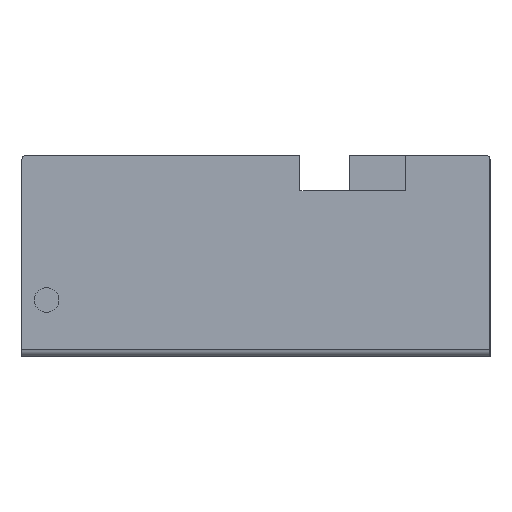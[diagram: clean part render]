
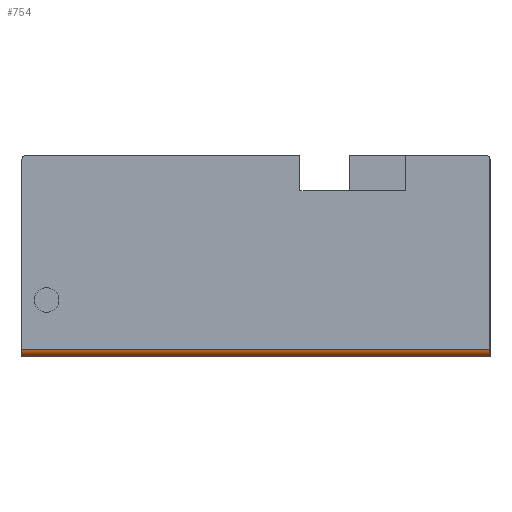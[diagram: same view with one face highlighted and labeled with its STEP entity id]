
A CAD part, left-side view. The second image highlights one B-rep face of the part: STEP entity #754.
In plain terms, the highlighted cylindrical face has radius 2 mm (diameter 4 mm), a partial arc.
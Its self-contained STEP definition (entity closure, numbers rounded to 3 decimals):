
#22 = VERTEX_POINT('',#23);
#23 = CARTESIAN_POINT('',(-2.,249.,2.));
#44 = PLANE('',#45);
#45 = AXIS2_PLACEMENT_3D('',#46,#47,#48);
#46 = CARTESIAN_POINT('',(-2.,182.5,29.5));
#47 = DIRECTION('',(1.,0.,0.));
#48 = DIRECTION('',(0.,0.,-1.));
#72 = PLANE('',#73);
#73 = AXIS2_PLACEMENT_3D('',#74,#75,#76);
#74 = CARTESIAN_POINT('',(0.,249.,2.));
#75 = DIRECTION('',(0.,1.,0.));
#76 = DIRECTION('',(0.,0.,-1.));
#330 = VERTEX_POINT('',#331);
#331 = CARTESIAN_POINT('',(-2.,116.,2.));
#357 = EDGE_CURVE('',#330,#22,#358,.T.);
#358 = SURFACE_CURVE('',#359,(#363,#370),.PCURVE_S1.);
#359 = LINE('',#360,#361);
#360 = CARTESIAN_POINT('',(-2.,116.,2.));
#361 = VECTOR('',#362,1.);
#362 = DIRECTION('',(0.,1.,0.));
#363 = PCURVE('',#44,#364);
#364 = DEFINITIONAL_REPRESENTATION('',(#365),#369);
#365 = LINE('',#366,#367);
#366 = CARTESIAN_POINT('',(27.5,-66.5));
#367 = VECTOR('',#368,1.);
#368 = DIRECTION('',(0.,1.));
#369 = ( GEOMETRIC_REPRESENTATION_CONTEXT(2) 
PARAMETRIC_REPRESENTATION_CONTEXT() REPRESENTATION_CONTEXT('2D SPACE',''
  ) );
#370 = PCURVE('',#371,#376);
#371 = CYLINDRICAL_SURFACE('',#372,2.);
#372 = AXIS2_PLACEMENT_3D('',#373,#374,#375);
#373 = CARTESIAN_POINT('',(0.,116.,2.));
#374 = DIRECTION('',(0.,1.,0.));
#375 = DIRECTION('',(0.,0.,-1.));
#376 = DEFINITIONAL_REPRESENTATION('',(#377),#381);
#377 = LINE('',#378,#379);
#378 = CARTESIAN_POINT('',(1.571,0.));
#379 = VECTOR('',#380,1.);
#380 = DIRECTION('',(0.,1.));
#381 = ( GEOMETRIC_REPRESENTATION_CONTEXT(2) 
PARAMETRIC_REPRESENTATION_CONTEXT() REPRESENTATION_CONTEXT('2D SPACE',''
  ) );
#417 = EDGE_CURVE('',#418,#22,#420,.T.);
#418 = VERTEX_POINT('',#419);
#419 = CARTESIAN_POINT('',(0.,249.,0.));
#420 = SURFACE_CURVE('',#421,(#426,#433),.PCURVE_S1.);
#421 = CIRCLE('',#422,2.);
#422 = AXIS2_PLACEMENT_3D('',#423,#424,#425);
#423 = CARTESIAN_POINT('',(0.,249.,2.));
#424 = DIRECTION('',(-0.,1.,0.));
#425 = DIRECTION('',(0.,0.,-1.));
#426 = PCURVE('',#72,#427);
#427 = DEFINITIONAL_REPRESENTATION('',(#428),#432);
#428 = CIRCLE('',#429,2.);
#429 = AXIS2_PLACEMENT_2D('',#430,#431);
#430 = CARTESIAN_POINT('',(0.,0.));
#431 = DIRECTION('',(1.,0.));
#432 = ( GEOMETRIC_REPRESENTATION_CONTEXT(2) 
PARAMETRIC_REPRESENTATION_CONTEXT() REPRESENTATION_CONTEXT('2D SPACE',''
  ) );
#433 = PCURVE('',#371,#434);
#434 = DEFINITIONAL_REPRESENTATION('',(#435),#439);
#435 = LINE('',#436,#437);
#436 = CARTESIAN_POINT('',(0.,133.));
#437 = VECTOR('',#438,1.);
#438 = DIRECTION('',(1.,0.));
#439 = ( GEOMETRIC_REPRESENTATION_CONTEXT(2) 
PARAMETRIC_REPRESENTATION_CONTEXT() REPRESENTATION_CONTEXT('2D SPACE',''
  ) );
#754 = ADVANCED_FACE('',(#755),#371,.T.);
#755 = FACE_BOUND('',#756,.T.);
#756 = EDGE_LOOP('',(#757,#786,#787,#788));
#757 = ORIENTED_EDGE('',*,*,#758,.T.);
#758 = EDGE_CURVE('',#759,#330,#761,.T.);
#759 = VERTEX_POINT('',#760);
#760 = CARTESIAN_POINT('',(0.,116.,0.));
#761 = SURFACE_CURVE('',#762,(#767,#774),.PCURVE_S1.);
#762 = CIRCLE('',#763,2.);
#763 = AXIS2_PLACEMENT_3D('',#764,#765,#766);
#764 = CARTESIAN_POINT('',(0.,116.,2.));
#765 = DIRECTION('',(-0.,1.,0.));
#766 = DIRECTION('',(0.,0.,-1.));
#767 = PCURVE('',#371,#768);
#768 = DEFINITIONAL_REPRESENTATION('',(#769),#773);
#769 = LINE('',#770,#771);
#770 = CARTESIAN_POINT('',(0.,0.));
#771 = VECTOR('',#772,1.);
#772 = DIRECTION('',(1.,0.));
#773 = ( GEOMETRIC_REPRESENTATION_CONTEXT(2) 
PARAMETRIC_REPRESENTATION_CONTEXT() REPRESENTATION_CONTEXT('2D SPACE',''
  ) );
#774 = PCURVE('',#775,#780);
#775 = PLANE('',#776);
#776 = AXIS2_PLACEMENT_3D('',#777,#778,#779);
#777 = CARTESIAN_POINT('',(0.,116.,2.));
#778 = DIRECTION('',(0.,1.,0.));
#779 = DIRECTION('',(-0.,-0.,-1.));
#780 = DEFINITIONAL_REPRESENTATION('',(#781),#785);
#781 = CIRCLE('',#782,2.);
#782 = AXIS2_PLACEMENT_2D('',#783,#784);
#783 = CARTESIAN_POINT('',(0.,0.));
#784 = DIRECTION('',(1.,-0.));
#785 = ( GEOMETRIC_REPRESENTATION_CONTEXT(2) 
PARAMETRIC_REPRESENTATION_CONTEXT() REPRESENTATION_CONTEXT('2D SPACE',''
  ) );
#786 = ORIENTED_EDGE('',*,*,#357,.T.);
#787 = ORIENTED_EDGE('',*,*,#417,.F.);
#788 = ORIENTED_EDGE('',*,*,#789,.T.);
#789 = EDGE_CURVE('',#418,#759,#790,.T.);
#790 = SURFACE_CURVE('',#791,(#795,#801),.PCURVE_S1.);
#791 = LINE('',#792,#793);
#792 = CARTESIAN_POINT('',(0.,249.,0.));
#793 = VECTOR('',#794,1.);
#794 = DIRECTION('',(0.,-1.,0.));
#795 = PCURVE('',#371,#796);
#796 = DEFINITIONAL_REPRESENTATION('',(#797),#800);
#797 = B_SPLINE_CURVE_WITH_KNOTS('',1,(#798,#799),.UNSPECIFIED.,.F.,.F.,
  (2,2),(0.,133.),.PIECEWISE_BEZIER_KNOTS.);
#798 = CARTESIAN_POINT('',(0.,133.));
#799 = CARTESIAN_POINT('',(0.,0.));
#800 = ( GEOMETRIC_REPRESENTATION_CONTEXT(2) 
PARAMETRIC_REPRESENTATION_CONTEXT() REPRESENTATION_CONTEXT('2D SPACE',''
  ) );
#801 = PCURVE('',#802,#807);
#802 = PLANE('',#803);
#803 = AXIS2_PLACEMENT_3D('',#804,#805,#806);
#804 = CARTESIAN_POINT('',(77.5,182.5,0.));
#805 = DIRECTION('',(0.,0.,1.));
#806 = DIRECTION('',(1.,0.,0.));
#807 = DEFINITIONAL_REPRESENTATION('',(#808),#812);
#808 = LINE('',#809,#810);
#809 = CARTESIAN_POINT('',(-77.5,66.5));
#810 = VECTOR('',#811,1.);
#811 = DIRECTION('',(0.,-1.));
#812 = ( GEOMETRIC_REPRESENTATION_CONTEXT(2) 
PARAMETRIC_REPRESENTATION_CONTEXT() REPRESENTATION_CONTEXT('2D SPACE',''
  ) );
